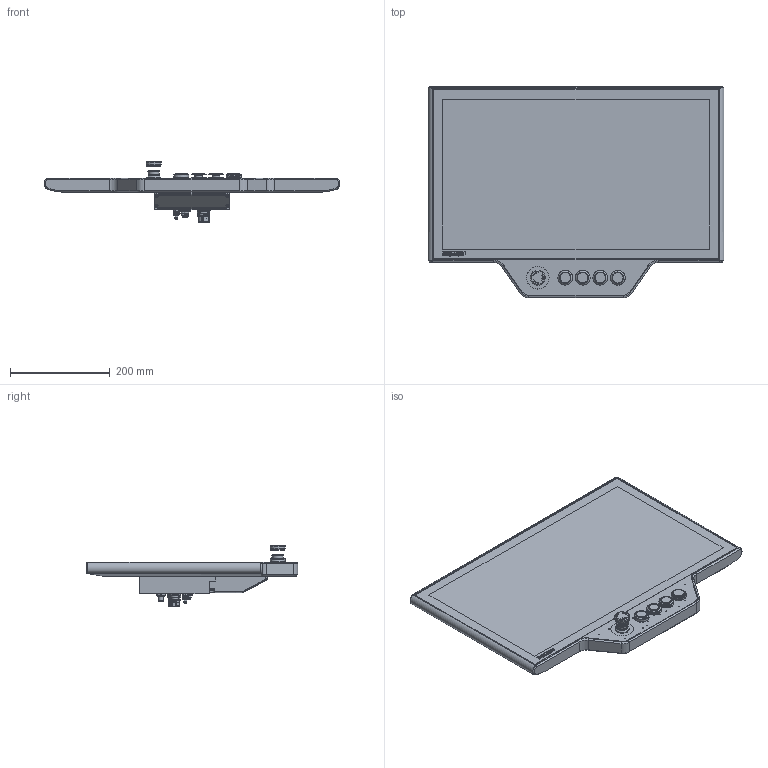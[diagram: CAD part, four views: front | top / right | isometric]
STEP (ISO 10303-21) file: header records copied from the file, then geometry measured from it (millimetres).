
FILE_DESCRIPTION(/* description */ ('-'),/* implementation_level */ '2;1');
FILE_NAME(/* name */ 'C:\Export\0000014428.stp',/* time_stamp */ '2023-03-10T08:52:40+01:00',/* author */ ('-'),/* organization */ ('(c) Beckhoff Automation GmbH & Co. KG, 33415 Verl'),/* preprocessor_version */ 'ST-DEVELOPER v18.1',/* originating_system */ 'Autodesk Inventor 2022',/* authorisation */ '-');
FILE_SCHEMA (('AUTOMOTIVE_DESIGN { 1 0 10303 214 3 1 1 }'));
Products named in the file (1): 0000014428_CP3924-0000-G05x-M362
Bounding box: 592.13 x 423.35 x 122.13 mm (x, y, z)
Volume: 7358265.8 mm3; surface area: 601970.3 mm2
Topology: 6 solids, 49 shells, 3862 faces, 9955 edges, 6474 vertices
Faces by surface type: plane 1677, cylinder 941, bspline 883, torus 144, cone 144, sphere 73
Full cylindrical faces by diameter (mm): 0.5 x8, 0.7 x19, 1 x47, 1.4 x3, 2.459 x17, 2.5 x23, 3.242 x2, 3.4 x4, 3.8 x1, 4 x6, 4.25 x3, 4.917 x9, 5 x4, 5.5 x14, 6 x3, 6.4 x2, 6.6 x1, 7.9 x1, 8 x1, 8.3 x1, 8.5 x6, 8.8 x3, 9 x5, 10 x1, 10.5 x1, 12 x2, 12.2 x1, 13.5 x2, 14.5 x1, 15 x4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
Entity records: 146148 total; most frequent: CARTESIAN_POINT 52000, ORIENTED_EDGE 19768, DIRECTION 16804, EDGE_CURVE 9884, VERTEX_POINT 6472, AXIS2_PLACEMENT_3D 5830, LINE 5144, VECTOR 5144
